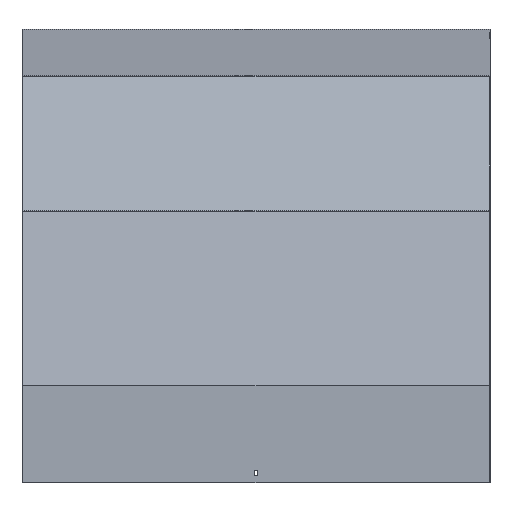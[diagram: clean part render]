
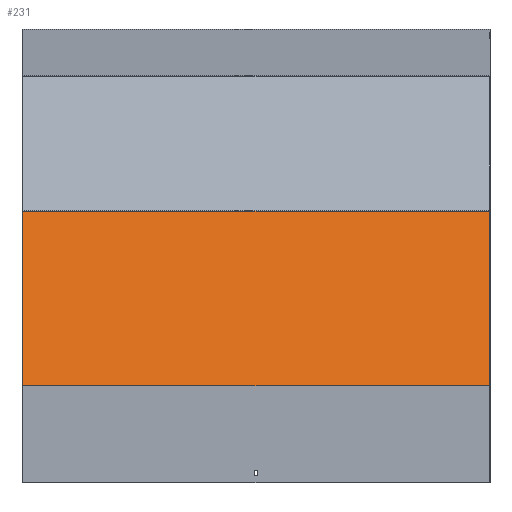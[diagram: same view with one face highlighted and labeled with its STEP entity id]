
A CAD part, top view. The second image highlights one B-rep face of the part: STEP entity #231.
In plain terms, the highlighted planar face has unit normal (0, 0.259, 0.966).
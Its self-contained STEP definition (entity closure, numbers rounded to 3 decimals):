
#53 = VERTEX_POINT ( 'NONE', #978 ) ;
#78 = EDGE_LOOP ( 'NONE', ( #424, #552, #714, #697 ) ) ;
#91 = CARTESIAN_POINT ( 'NONE',  ( -401.5, -593.325, 779.958 ) ) ;
#113 = LINE ( 'NONE', #442, #438 ) ;
#117 = LINE ( 'NONE', #886, #980 ) ;
#194 = EDGE_CURVE ( 'NONE', #53, #397, #651, .T. ) ;
#231 = ADVANCED_FACE ( 'NONE', ( #321 ), #243, .F. ) ;
#243 = PLANE ( 'NONE',  #272 ) ;
#245 = VECTOR ( 'NONE', #1006, 1000. ) ;
#272 = AXIS2_PLACEMENT_3D ( 'NONE', #928, #1094, #1000 ) ;
#321 = FACE_OUTER_BOUND ( 'NONE', #78, .T. ) ;
#389 = CARTESIAN_POINT ( 'NONE',  ( 401.5, -298.106, 700.854 ) ) ;
#397 = VERTEX_POINT ( 'NONE', #91 ) ;
#424 = ORIENTED_EDGE ( 'NONE', *, *, #734, .T. ) ;
#438 = VECTOR ( 'NONE', #452, 1000. ) ;
#442 = CARTESIAN_POINT ( 'NONE',  ( -401.5, -298.106, 700.854 ) ) ;
#452 = DIRECTION ( 'NONE',  ( 0., -0.966, 0.259 ) ) ;
#496 = CARTESIAN_POINT ( 'NONE',  ( 401.5, -292.929, 699.467 ) ) ;
#552 = ORIENTED_EDGE ( 'NONE', *, *, #194, .F. ) ;
#612 = DIRECTION ( 'NONE',  ( -1., 0., 0. ) ) ;
#633 = CARTESIAN_POINT ( 'NONE',  ( -401.5, -292.929, 699.467 ) ) ;
#651 = LINE ( 'NONE', #835, #245 ) ;
#697 = ORIENTED_EDGE ( 'NONE', *, *, #740, .T. ) ;
#702 = VECTOR ( 'NONE', #825, 1000. ) ;
#714 = ORIENTED_EDGE ( 'NONE', *, *, #847, .F. ) ;
#734 = EDGE_CURVE ( 'NONE', #1097, #397, #113, .T. ) ;
#740 = EDGE_CURVE ( 'NONE', #910, #1097, #117, .T. ) ;
#825 = DIRECTION ( 'NONE',  ( 0., -0.966, 0.259 ) ) ;
#835 = CARTESIAN_POINT ( 'NONE',  ( 401.5, -593.325, 779.958 ) ) ;
#847 = EDGE_CURVE ( 'NONE', #910, #53, #1087, .T. ) ;
#886 = CARTESIAN_POINT ( 'NONE',  ( 401.5, -292.929, 699.467 ) ) ;
#910 = VERTEX_POINT ( 'NONE', #496 ) ;
#928 = CARTESIAN_POINT ( 'NONE',  ( 401.5, -298.106, 700.854 ) ) ;
#978 = CARTESIAN_POINT ( 'NONE',  ( 401.5, -593.325, 779.958 ) ) ;
#980 = VECTOR ( 'NONE', #612, 1000. ) ;
#1000 = DIRECTION ( 'NONE',  ( 0., 0.966, -0.259 ) ) ;
#1006 = DIRECTION ( 'NONE',  ( -1., 0., 0. ) ) ;
#1087 = LINE ( 'NONE', #389, #702 ) ;
#1094 = DIRECTION ( 'NONE',  ( 0., -0.259, -0.966 ) ) ;
#1097 = VERTEX_POINT ( 'NONE', #633 ) ;
